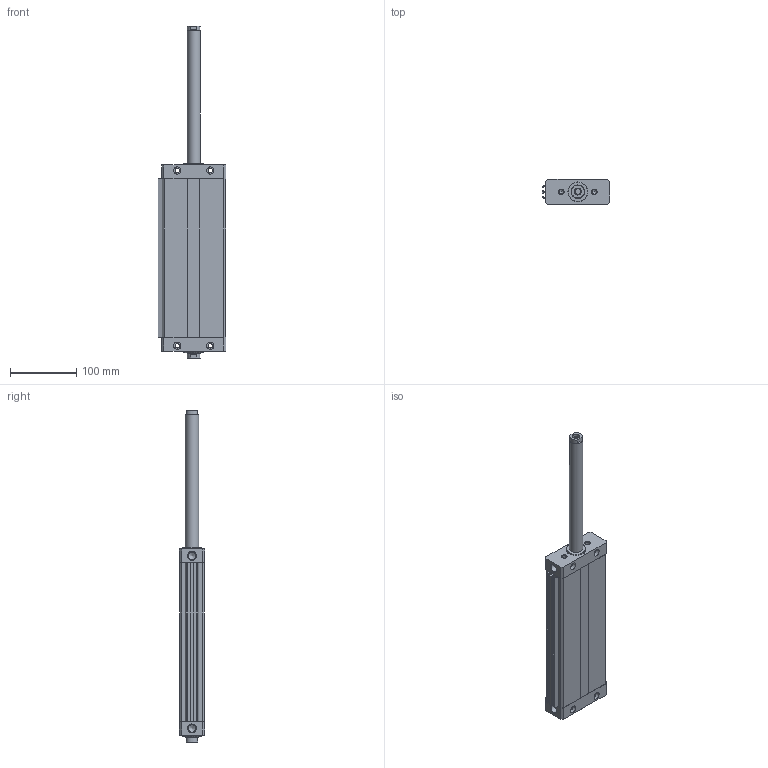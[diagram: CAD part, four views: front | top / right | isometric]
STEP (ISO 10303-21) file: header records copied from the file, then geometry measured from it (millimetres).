
FILE_DESCRIPTION((''),'2;1');
FILE_NAME('I:\Area Tecnica\Disegni\VARIE-3D\Componenti\1370 - CPO\1370_##_0000_03\1370_50_0200_03-01.iam.step','2010-12-16T11:00:00',(''),(''),'Autodesk Inventor 2011','Autodesk Inventor 2011','');
FILE_SCHEMA(('AUTOMOTIVE_DESIGN { 1 0 10303 214 1 1 1 1 }'));
Length unit declared in the file: millimetre
Products named in the file (5): 1370_50_0200_03-01; 1370_05_50_0000; 1370_06_50_0200; 1370_08_50_0000; 1370_3_50_0200
Assembly tree (4 placements, depth 2):
  1370_50_0200_03-01
    1370_05_50_0000
    1370_06_50_0200
    1370_08_50_0000
    1370_3_50_0200
Bounding box: 102.5 x 38 x 502 mm (x, y, z)
Volume: 726082.3 mm3; surface area: 199685.3 mm2
Topology: 4 solids, 4 shells, 164 faces, 398 edges, 252 vertices
Faces by surface type: plane 94, cylinder 50, cone 20
Full cylindrical faces by diameter (mm): 6.8 x18, 8.5 x2, 10.3 x2, 11 x8, 11.75 x2, 20 x4, 30 x2
Entity records: 4722 total; most frequent: DIRECTION 794, CARTESIAN_POINT 737, ORIENTED_EDGE 652, EDGE_CURVE 326, AXIS2_PLACEMENT_3D 295, EDGE_LOOP 254, VERTEX_POINT 238, VECTOR 204
